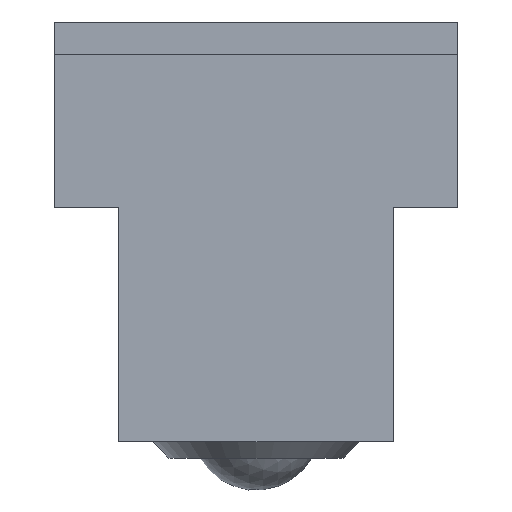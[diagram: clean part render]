
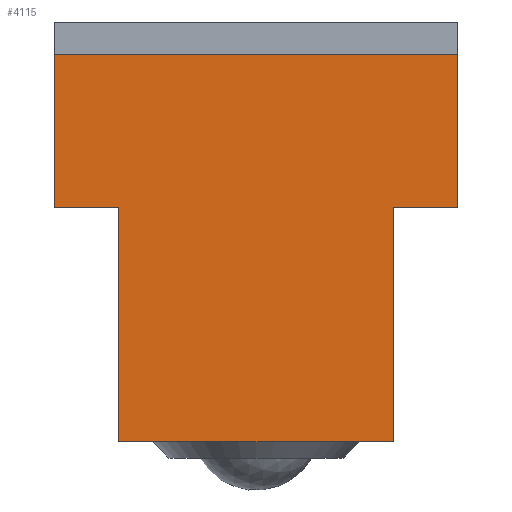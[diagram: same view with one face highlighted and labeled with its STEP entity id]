
A CAD part, left-side view. The second image highlights one B-rep face of the part: STEP entity #4115.
In plain terms, the highlighted planar face has unit normal (-1, 0, 0) as drawn and (0, 0, -1) by its records, which use the part's own axes.
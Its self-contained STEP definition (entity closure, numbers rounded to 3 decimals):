
#288=LINE('',#6361,#536);
#293=LINE('',#6371,#541);
#300=LINE('',#6397,#548);
#307=LINE('',#6411,#555);
#310=LINE('',#6415,#558);
#311=LINE('',#6417,#559);
#312=LINE('',#6420,#560);
#314=LINE('',#6423,#562);
#536=VECTOR('',#5094,14.5);
#541=VECTOR('',#5101,4.);
#548=VECTOR('',#5130,14.5);
#555=VECTOR('',#5141,9.5);
#558=VECTOR('',#5146,4.);
#559=VECTOR('',#5149,17.);
#560=VECTOR('',#5152,9.5);
#562=VECTOR('',#5156,25.);
#780=PLANE('',#4444);
#1205=FACE_OUTER_BOUND('',#1542,.T.);
#1542=EDGE_LOOP('',(#3195,#3196,#3197,#3198,#3199,#3200,#3201,#3202));
#2142=VERTEX_POINT('',#6358);
#2143=VERTEX_POINT('',#6360);
#2146=VERTEX_POINT('',#6368);
#2147=VERTEX_POINT('',#6370);
#2155=VERTEX_POINT('',#6396);
#2159=VERTEX_POINT('',#6409);
#2160=VERTEX_POINT('',#6410);
#2161=VERTEX_POINT('',#6419);
#2544=EDGE_CURVE('',#2142,#2143,#288,.T.);
#2549=EDGE_CURVE('',#2146,#2147,#293,.T.);
#2560=EDGE_CURVE('',#2147,#2155,#300,.T.);
#2567=EDGE_CURVE('',#2159,#2160,#307,.T.);
#2570=EDGE_CURVE('',#2143,#2159,#310,.T.);
#2571=EDGE_CURVE('',#2155,#2142,#311,.T.);
#2572=EDGE_CURVE('',#2161,#2146,#312,.T.);
#2574=EDGE_CURVE('',#2160,#2161,#314,.T.);
#3195=ORIENTED_EDGE('',*,*,#2574,.F.);
#3196=ORIENTED_EDGE('',*,*,#2567,.F.);
#3197=ORIENTED_EDGE('',*,*,#2570,.F.);
#3198=ORIENTED_EDGE('',*,*,#2544,.F.);
#3199=ORIENTED_EDGE('',*,*,#2571,.F.);
#3200=ORIENTED_EDGE('',*,*,#2560,.F.);
#3201=ORIENTED_EDGE('',*,*,#2549,.F.);
#3202=ORIENTED_EDGE('',*,*,#2572,.F.);
#4115=ADVANCED_FACE('',(#1205),#780,.F.);
#4444=AXIS2_PLACEMENT_3D('',#6424,#5157,#5158);
#5094=DIRECTION('',(0.,-1.,0.));
#5101=DIRECTION('',(-1.,0.,0.));
#5130=DIRECTION('',(0.,1.,0.));
#5141=DIRECTION('',(0.,-1.,0.));
#5146=DIRECTION('',(-1.,0.,0.));
#5149=DIRECTION('',(-1.,0.,0.));
#5152=DIRECTION('',(0.,1.,0.));
#5156=DIRECTION('',(1.,0.,0.));
#5157=DIRECTION('center_axis',(0.,0.,1.));
#5158=DIRECTION('ref_axis',(1.,0.,0.));
#6358=CARTESIAN_POINT('',(4.,24.,0.));
#6360=CARTESIAN_POINT('',(4.,9.5,0.));
#6361=CARTESIAN_POINT('',(4.,24.,0.));
#6368=CARTESIAN_POINT('',(25.,9.5,0.));
#6370=CARTESIAN_POINT('',(21.,9.5,0.));
#6371=CARTESIAN_POINT('',(25.,9.5,0.));
#6396=CARTESIAN_POINT('',(21.,24.,0.));
#6397=CARTESIAN_POINT('',(21.,9.5,0.));
#6409=CARTESIAN_POINT('',(0.,9.5,0.));
#6410=CARTESIAN_POINT('',(0.,0.,0.));
#6411=CARTESIAN_POINT('',(0.,9.5,0.));
#6415=CARTESIAN_POINT('',(4.,9.5,0.));
#6417=CARTESIAN_POINT('',(21.,24.,0.));
#6419=CARTESIAN_POINT('',(25.,0.,0.));
#6420=CARTESIAN_POINT('',(25.,0.,0.));
#6423=CARTESIAN_POINT('',(0.,0.,0.));
#6424=CARTESIAN_POINT('Origin',(12.5,10.816,0.));
